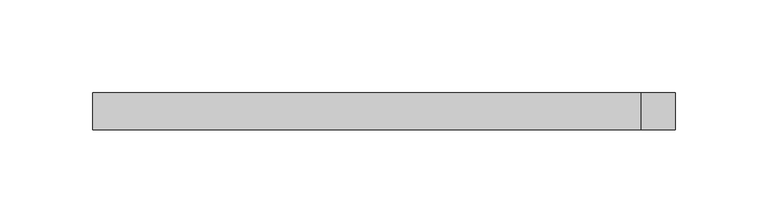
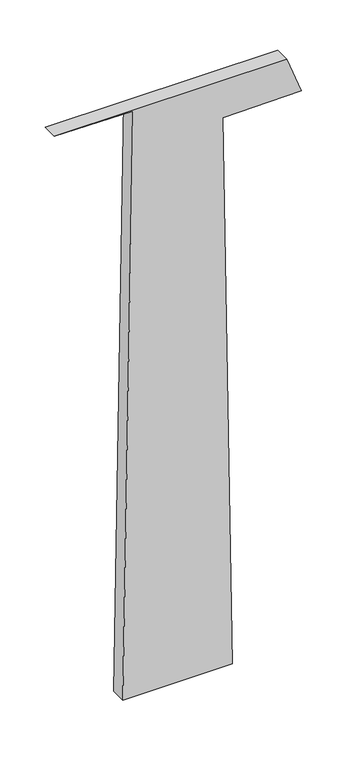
"""IFC4 building model written with IfcOpenShell, lengths in millimetres: plate geometry, 空系统嵌板 : 空."""

from ifc_helpers import new_model, si_unit, frame, origin, place, context, project, spatial, polyline, outline, extrude, source, transform, mapped, element, save


def plate_9ed079f8(model_context):
    return source(origin(), model_context, "Body", "SweptSolid", [
        extrude(outline(polyline([(0.0, -70.2229631), (0.0, 69.3396215), (739.6096275, 57.2118876), (741.2491551, 157.1984464), (789.7301782, 138.6792553), (790.0048492, -157.1984464), (788.3546872, -57.2120625), (0.0, -70.2229631)])), frame((0.0, -10.0, 0.0), z_axis=(0.0, 1.0, 0.0), x_axis=(0.0, 0.0, 1.0)), (0.0, 0.0, 1.0), 20.0),
    ])


if __name__ == "__main__":
    model = new_model("IFC4")
    model_context = context("Model", 3, world=origin())
    ifc_project = project(units=[si_unit("LENGTHUNIT", "METRE", prefix="MILLI")], contexts=[model_context])
    site = spatial("IfcSite", under=ifc_project)
    building = spatial("IfcBuilding", under=site)
    placement = place(None, origin())
    plate_shape = plate_9ed079f8(model_context)
    element("IfcPlate", 1, ObjectType="空系统嵌板 : 空", at=placement, inside=building, context=model_context, shape_type="MappedRepresentation", body=[
        mapped(plate_shape, transform((0.0, 0.0, 0.0), x_axis=(1.0, 0.0, 0.0), y_axis=(0.0, 1.0, 0.0), z_axis=(0.0, 0.0, 1.0))),
    ])
    save(model, "model.ifc")
